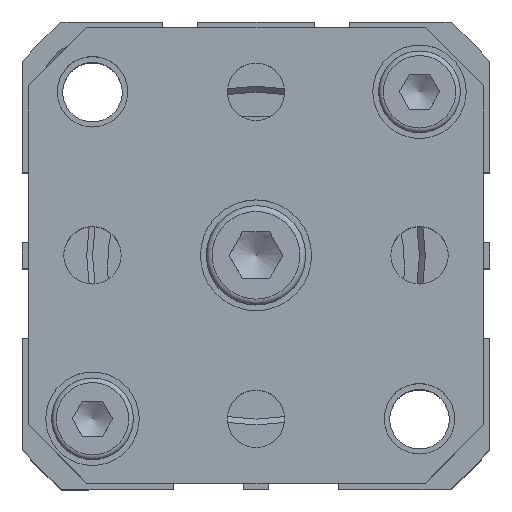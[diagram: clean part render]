
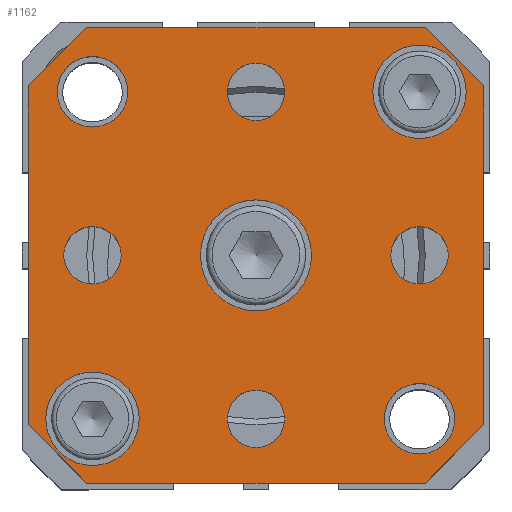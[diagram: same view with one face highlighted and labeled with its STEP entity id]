
A CAD part, top view. The second image highlights one B-rep face of the part: STEP entity #1162.
In plain terms, the highlighted planar face has unit normal (0, 0, 1).
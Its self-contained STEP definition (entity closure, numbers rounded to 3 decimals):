
#464=CARTESIAN_POINT('',(-12.524,-11.716,55.2));
#465=VERTEX_POINT('',#464);
#466=CARTESIAN_POINT('',(-16.524,-11.716,55.2));
#467=DIRECTION('',(0.0,0.0,-1.0));
#468=DIRECTION('',(1.0,0.0,0.0));
#469=AXIS2_PLACEMENT_3D('',#466,#467,#468);
#470=CIRCLE('',#469,4.0);
#471=EDGE_CURVE('',#465,#465,#470,.T.);
#566=CARTESIAN_POINT('',(15.476,16.284,55.2));
#567=VERTEX_POINT('',#566);
#568=CARTESIAN_POINT('',(11.476,16.284,55.2));
#569=DIRECTION('',(0.0,0.0,-1.0));
#570=DIRECTION('',(1.0,0.0,0.0));
#571=AXIS2_PLACEMENT_3D('',#568,#569,#570);
#572=CIRCLE('',#571,4.0);
#573=EDGE_CURVE('',#567,#567,#572,.T.);
#651=CARTESIAN_POINT('',(13.934,2.284,55.2));
#652=VERTEX_POINT('',#651);
#653=CARTESIAN_POINT('',(11.476,2.284,55.2));
#654=DIRECTION('',(0.0,0.0,-1.0));
#655=DIRECTION('',(1.0,0.0,0.0));
#656=AXIS2_PLACEMENT_3D('',#653,#654,#655);
#657=CIRCLE('',#656,2.459);
#658=EDGE_CURVE('',#652,#652,#657,.T.);
#692=CARTESIAN_POINT('',(-0.066,-11.716,55.2));
#693=VERTEX_POINT('',#692);
#694=CARTESIAN_POINT('',(-2.524,-11.716,55.2));
#695=DIRECTION('',(0.0,0.0,-1.0));
#696=DIRECTION('',(1.0,0.0,0.0));
#697=AXIS2_PLACEMENT_3D('',#694,#695,#696);
#698=CIRCLE('',#697,2.459);
#699=EDGE_CURVE('',#693,#693,#698,.T.);
#733=CARTESIAN_POINT('',(-14.066,2.284,55.2));
#734=VERTEX_POINT('',#733);
#735=CARTESIAN_POINT('',(-16.524,2.284,55.2));
#736=DIRECTION('',(0.0,0.0,-1.0));
#737=DIRECTION('',(1.0,0.0,0.0));
#738=AXIS2_PLACEMENT_3D('',#735,#736,#737);
#739=CIRCLE('',#738,2.459);
#740=EDGE_CURVE('',#734,#734,#739,.T.);
#774=CARTESIAN_POINT('',(-0.066,16.284,55.2));
#775=VERTEX_POINT('',#774);
#776=CARTESIAN_POINT('',(-2.524,16.284,55.2));
#777=DIRECTION('',(0.0,0.0,-1.0));
#778=DIRECTION('',(1.0,0.0,0.0));
#779=AXIS2_PLACEMENT_3D('',#776,#777,#778);
#780=CIRCLE('',#779,2.459);
#781=EDGE_CURVE('',#775,#775,#780,.T.);
#840=CARTESIAN_POINT('',(2.226,2.284,55.2));
#841=VERTEX_POINT('',#840);
#842=CARTESIAN_POINT('',(-2.524,2.284,55.2));
#843=DIRECTION('',(0.0,0.0,-1.0));
#844=DIRECTION('',(1.0,0.0,0.0));
#845=AXIS2_PLACEMENT_3D('',#842,#843,#844);
#846=CIRCLE('',#845,4.75);
#847=EDGE_CURVE('',#841,#841,#846,.T.);
#893=CARTESIAN_POINT('',(14.495,-11.716,55.2));
#894=VERTEX_POINT('',#893);
#895=CARTESIAN_POINT('',(11.476,-11.716,55.2));
#896=DIRECTION('',(0.0,0.0,-1.0));
#897=DIRECTION('',(-1.0,0.0,0.0));
#898=AXIS2_PLACEMENT_3D('',#895,#896,#897);
#899=CIRCLE('',#898,3.019);
#900=EDGE_CURVE('',#894,#894,#899,.T.);
#913=CARTESIAN_POINT('',(-13.505,16.284,55.2));
#914=VERTEX_POINT('',#913);
#915=CARTESIAN_POINT('',(-16.524,16.284,55.2));
#916=DIRECTION('',(0.0,0.0,-1.0));
#917=DIRECTION('',(-1.0,0.0,0.0));
#918=AXIS2_PLACEMENT_3D('',#915,#916,#917);
#919=CIRCLE('',#918,3.019);
#920=EDGE_CURVE('',#914,#914,#919,.T.);
#933=CARTESIAN_POINT('',(-17.024,21.784,55.2));
#934=VERTEX_POINT('',#933);
#935=CARTESIAN_POINT('',(11.976,21.784,55.2));
#936=VERTEX_POINT('',#935);
#937=CARTESIAN_POINT('',(-17.024,21.784,55.2));
#938=DIRECTION('',(1.0,0.0,0.0));
#939=VECTOR('',#938,29.);
#940=LINE('',#937,#939);
#941=EDGE_CURVE('',#934,#936,#940,.T.);
#964=CARTESIAN_POINT('',(16.976,16.784,55.2));
#965=VERTEX_POINT('',#964);
#966=CARTESIAN_POINT('',(11.976,21.784,55.2));
#967=DIRECTION('',(0.707,-0.707,0.0));
#968=VECTOR('',#967,7.071);
#969=LINE('',#966,#968);
#970=EDGE_CURVE('',#936,#965,#969,.T.);
#988=CARTESIAN_POINT('',(16.976,-12.216,55.2));
#989=VERTEX_POINT('',#988);
#990=CARTESIAN_POINT('',(16.976,16.784,55.2));
#991=DIRECTION('',(0.0,-1.0,0.0));
#992=VECTOR('',#991,29.);
#993=LINE('',#990,#992);
#994=EDGE_CURVE('',#965,#989,#993,.T.);
#1012=CARTESIAN_POINT('',(11.976,-17.216,55.2));
#1013=VERTEX_POINT('',#1012);
#1014=CARTESIAN_POINT('',(16.976,-12.216,55.2));
#1015=DIRECTION('',(-0.707,-0.707,0.0));
#1016=VECTOR('',#1015,7.071);
#1017=LINE('',#1014,#1016);
#1018=EDGE_CURVE('',#989,#1013,#1017,.T.);
#1036=CARTESIAN_POINT('',(-17.024,-17.216,55.2));
#1037=VERTEX_POINT('',#1036);
#1038=CARTESIAN_POINT('',(11.976,-17.216,55.2));
#1039=DIRECTION('',(-1.0,0.0,0.0));
#1040=VECTOR('',#1039,29.);
#1041=LINE('',#1038,#1040);
#1042=EDGE_CURVE('',#1013,#1037,#1041,.T.);
#1060=CARTESIAN_POINT('',(-22.024,-12.216,55.2));
#1061=VERTEX_POINT('',#1060);
#1062=CARTESIAN_POINT('',(-17.024,-17.216,55.2));
#1063=DIRECTION('',(-0.707,0.707,0.0));
#1064=VECTOR('',#1063,7.071);
#1065=LINE('',#1062,#1064);
#1066=EDGE_CURVE('',#1037,#1061,#1065,.T.);
#1084=CARTESIAN_POINT('',(-22.024,16.784,55.2));
#1085=VERTEX_POINT('',#1084);
#1086=CARTESIAN_POINT('',(-22.024,-12.216,55.2));
#1087=DIRECTION('',(0.0,1.0,0.0));
#1088=VECTOR('',#1087,29.);
#1089=LINE('',#1086,#1088);
#1090=EDGE_CURVE('',#1061,#1085,#1089,.T.);
#1108=CARTESIAN_POINT('',(-22.024,16.784,55.2));
#1109=DIRECTION('',(0.707,0.707,0.0));
#1110=VECTOR('',#1109,7.071);
#1111=LINE('',#1108,#1110);
#1112=EDGE_CURVE('',#1085,#934,#1111,.T.);
#1120=CARTESIAN_POINT('',(-2.524,2.284,55.2));
#1121=DIRECTION('',(0.0,0.0,1.0));
#1122=DIRECTION('',(1.0,0.0,0.0));
#1123=AXIS2_PLACEMENT_3D('',#1120,#1121,#1122);
#1124=PLANE('',#1123);
#1125=ORIENTED_EDGE('',*,*,#941,.F.);
#1126=ORIENTED_EDGE('',*,*,#1112,.F.);
#1127=ORIENTED_EDGE('',*,*,#1090,.F.);
#1128=ORIENTED_EDGE('',*,*,#1066,.F.);
#1129=ORIENTED_EDGE('',*,*,#1042,.F.);
#1130=ORIENTED_EDGE('',*,*,#1018,.F.);
#1131=ORIENTED_EDGE('',*,*,#994,.F.);
#1132=ORIENTED_EDGE('',*,*,#970,.F.);
#1133=EDGE_LOOP('',(#1125,#1126,#1127,#1128,#1129,#1130,#1131,#1132));
#1134=FACE_OUTER_BOUND('',#1133,.T.);
#1135=ORIENTED_EDGE('',*,*,#471,.T.);
#1136=EDGE_LOOP('',(#1135));
#1137=FACE_BOUND('',#1136,.T.);
#1138=ORIENTED_EDGE('',*,*,#573,.T.);
#1139=EDGE_LOOP('',(#1138));
#1140=FACE_BOUND('',#1139,.T.);
#1141=ORIENTED_EDGE('',*,*,#658,.T.);
#1142=EDGE_LOOP('',(#1141));
#1143=FACE_BOUND('',#1142,.T.);
#1144=ORIENTED_EDGE('',*,*,#699,.T.);
#1145=EDGE_LOOP('',(#1144));
#1146=FACE_BOUND('',#1145,.T.);
#1147=ORIENTED_EDGE('',*,*,#740,.T.);
#1148=EDGE_LOOP('',(#1147));
#1149=FACE_BOUND('',#1148,.T.);
#1150=ORIENTED_EDGE('',*,*,#781,.T.);
#1151=EDGE_LOOP('',(#1150));
#1152=FACE_BOUND('',#1151,.T.);
#1153=ORIENTED_EDGE('',*,*,#847,.T.);
#1154=EDGE_LOOP('',(#1153));
#1155=FACE_BOUND('',#1154,.T.);
#1156=ORIENTED_EDGE('',*,*,#900,.T.);
#1157=EDGE_LOOP('',(#1156));
#1158=FACE_BOUND('',#1157,.T.);
#1159=ORIENTED_EDGE('',*,*,#920,.T.);
#1160=EDGE_LOOP('',(#1159));
#1161=FACE_BOUND('',#1160,.T.);
#1162=ADVANCED_FACE('',(#1134,#1137,#1140,#1143,#1146,#1149,#1152,#1155,#1158,#1161),#1124,.T.);
